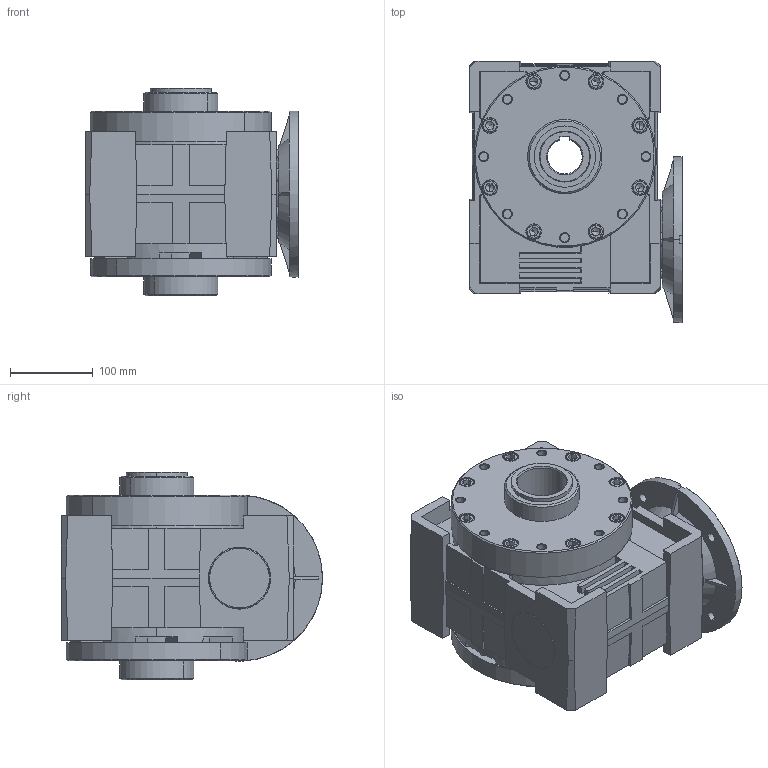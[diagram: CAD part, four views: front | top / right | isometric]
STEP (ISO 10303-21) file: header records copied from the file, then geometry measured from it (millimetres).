
FILE_DESCRIPTION (( 'STEP AP203' ), '1' );
FILE_NAME ('MRP-100_200-24_SO-2.STEP', '2022-12-05T11:27:34', ( '' ), ( '' ), 'SwSTEP 2.0', 'SolidWorks 2022', '' );
FILE_SCHEMA (( 'CONFIG_CONTROL_DESIGN' ));
Products named in the file (1): MRP-100_200-24_SO-2
Bounding box: 257 x 315.23 x 251 mm (x, y, z)
Volume: 9843051.6 mm3; surface area: 715859.6 mm2
Topology: 1 solids, 49 shells, 1610 faces, 3839 edges, 2376 vertices
Faces by surface type: plane 781, cone 362, cylinder 286, torus 117, bspline 64
Entity records: 50917 total; most frequent: CARTESIAN_POINT 13814, DIRECTION 7862, ORIENTED_EDGE 7554, EDGE_CURVE 3777, AXIS2_PLACEMENT_3D 3026, VERTEX_POINT 2376, VECTOR 1810, LINE 1810
